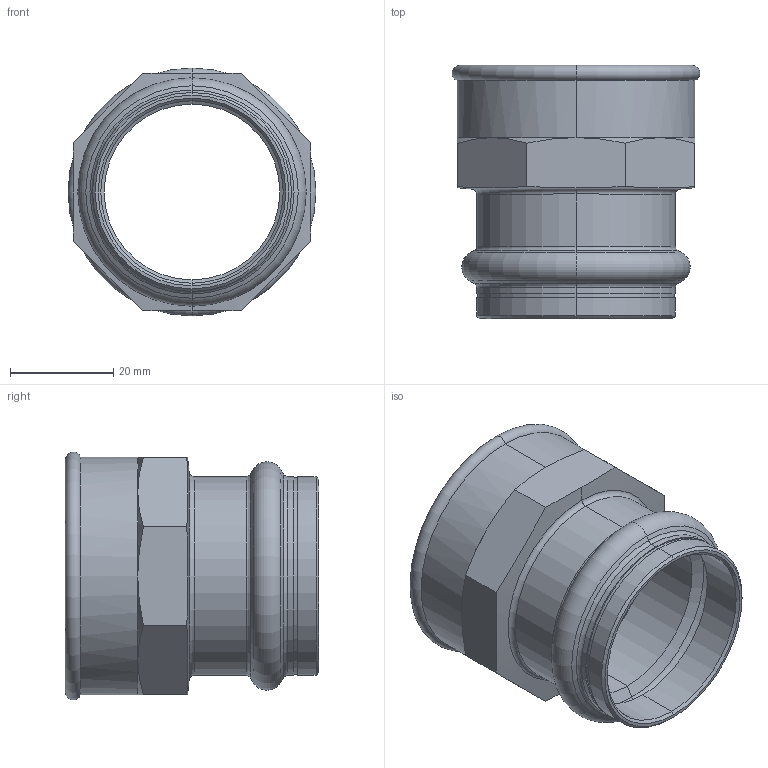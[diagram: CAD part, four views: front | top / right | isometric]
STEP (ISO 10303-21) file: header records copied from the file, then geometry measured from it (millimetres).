
FILE_DESCRIPTION (( 'STEP AP203' ), '1' );
FILE_NAME ('SP4270G Ø35 1 1-4.STEP', '2017-04-26T08:34:41', ( '' ), ( '' ), 'SwSTEP 2.0', 'SolidWorks 2016', '' );
FILE_SCHEMA (( 'CONFIG_CONTROL_DESIGN' ));
Length unit declared in the file: millimetre
Products named in the file (1): SP4270G Ø35 1 1-4
Bounding box: 47.99 x 49 x 47.99 mm (x, y, z)
Volume: 18217.6 mm3; surface area: 14641.3 mm2
Topology: 1 solids, 1 shells, 69 faces, 146 edges, 82 vertices
Faces by surface type: cone 26, cylinder 18, plane 13, torus 12
Entity records: 1991 total; most frequent: CARTESIAN_POINT 432, DIRECTION 336, ORIENTED_EDGE 292, AXIS2_PLACEMENT_3D 146, EDGE_CURVE 146, VERTEX_POINT 82, CIRCLE 76, EDGE_LOOP 74
